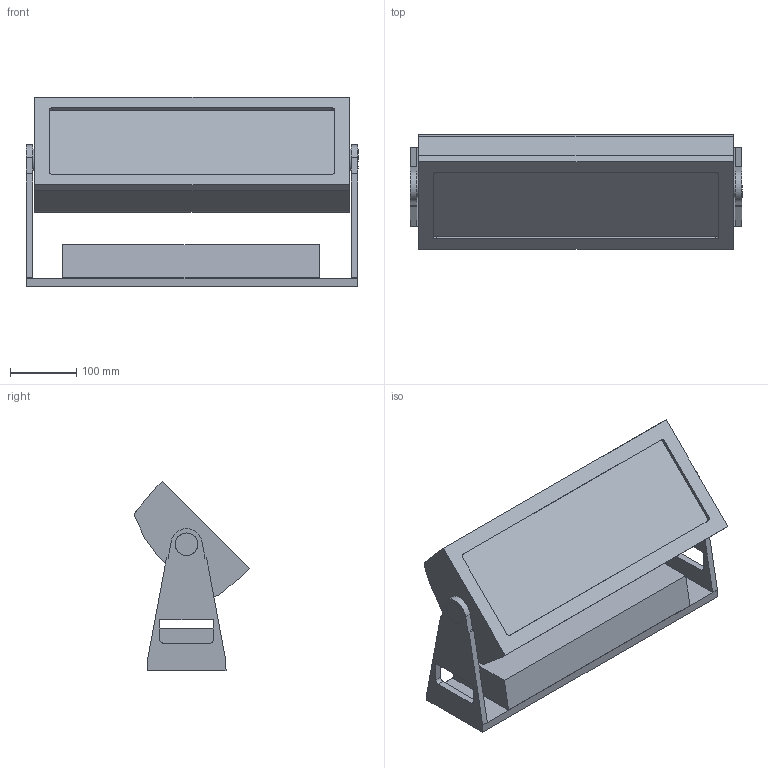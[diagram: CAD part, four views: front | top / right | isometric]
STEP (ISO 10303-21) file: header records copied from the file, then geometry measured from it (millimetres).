
FILE_DESCRIPTION(/* description */ (''),/* implementation_level */ '2;1');
FILE_NAME(/* name */ 'ILUMIPANEL ML2_45.stp',/* time_stamp */ '2025-06-26T10:11:07-04:00',/* author */ ('chenry'),/* organization */ (''),/* preprocessor_version */ 'ST-DEVELOPER v20',/* originating_system */ 'Autodesk Inventor 2024',/* authorisation */ '');
FILE_SCHEMA (('AUTOMOTIVE_DESIGN { 1 0 10303 214 3 1 1 }'));
Length unit declared in the file: millimetre
Products named in the file (3): AM1362_0001_ASM_ASM; Base0; Head0
Assembly tree (2 placements, depth 2):
  AM1362_0001_ASM_ASM
    Base0
    Head0
Bounding box: 501.02 x 173.28 x 285.59 mm (x, y, z)
Volume: 9671422.1 mm3; surface area: 515163 mm2
Topology: 2 solids, 2 shells, 70 faces, 185 edges, 122 vertices
Faces by surface type: plane 53, cylinder 17
Full cylindrical faces by diameter (mm): 34 x4
Entity records: 2292 total; most frequent: CARTESIAN_POINT 382, ORIENTED_EDGE 370, DIRECTION 369, EDGE_CURVE 185, LINE 151, VECTOR 151, VERTEX_POINT 122, AXIS2_PLACEMENT_3D 109
